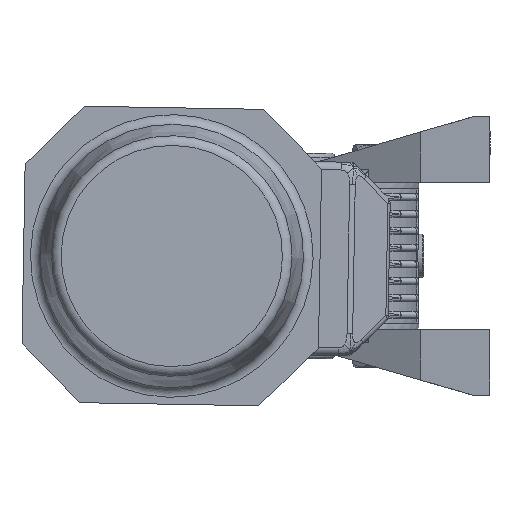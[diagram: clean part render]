
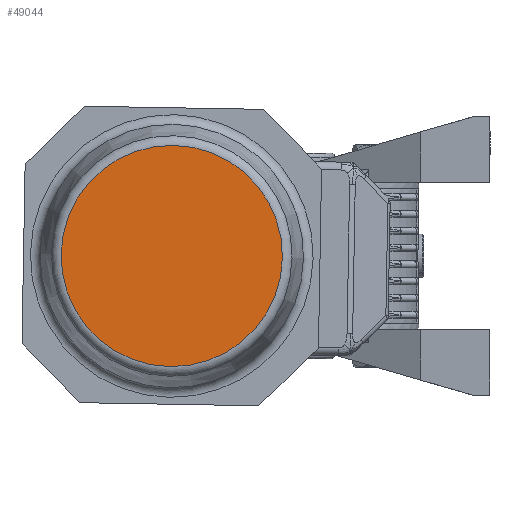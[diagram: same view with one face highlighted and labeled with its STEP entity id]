
A CAD part, left-side view. The second image highlights one B-rep face of the part: STEP entity #49044.
In plain terms, the highlighted planar face has unit normal (-1, 0, 0) as drawn and (1, 0, 0) by its records, which use the part's own axes.
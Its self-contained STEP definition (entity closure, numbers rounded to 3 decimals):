
#49021=CARTESIAN_POINT('',(265.0,0.0,55.983));
#49022=VERTEX_POINT('',#49021);
#49023=CARTESIAN_POINT('',(265.0,0.0,0.0));
#49024=DIRECTION('',(-1.0,0.0,0.0));
#49025=DIRECTION('',(0.0,0.0,-1.0));
#49026=AXIS2_PLACEMENT_3D('',#49023,#49024,#49025);
#49027=CIRCLE('',#49026,55.983);
#49028=EDGE_CURVE('',#49022,#49022,#49027,.T.);
#49036=CARTESIAN_POINT('',(265.0,0.0,30.0));
#49037=DIRECTION('',(1.0,0.0,0.0));
#49038=DIRECTION('',(0.0,0.0,-1.0));
#49039=AXIS2_PLACEMENT_3D('',#49036,#49037,#49038);
#49040=PLANE('',#49039);
#49041=ORIENTED_EDGE('',*,*,#49028,.F.);
#49042=EDGE_LOOP('',(#49041));
#49043=FACE_OUTER_BOUND('',#49042,.T.);
#49044=ADVANCED_FACE('',(#49043),#49040,.T.);
